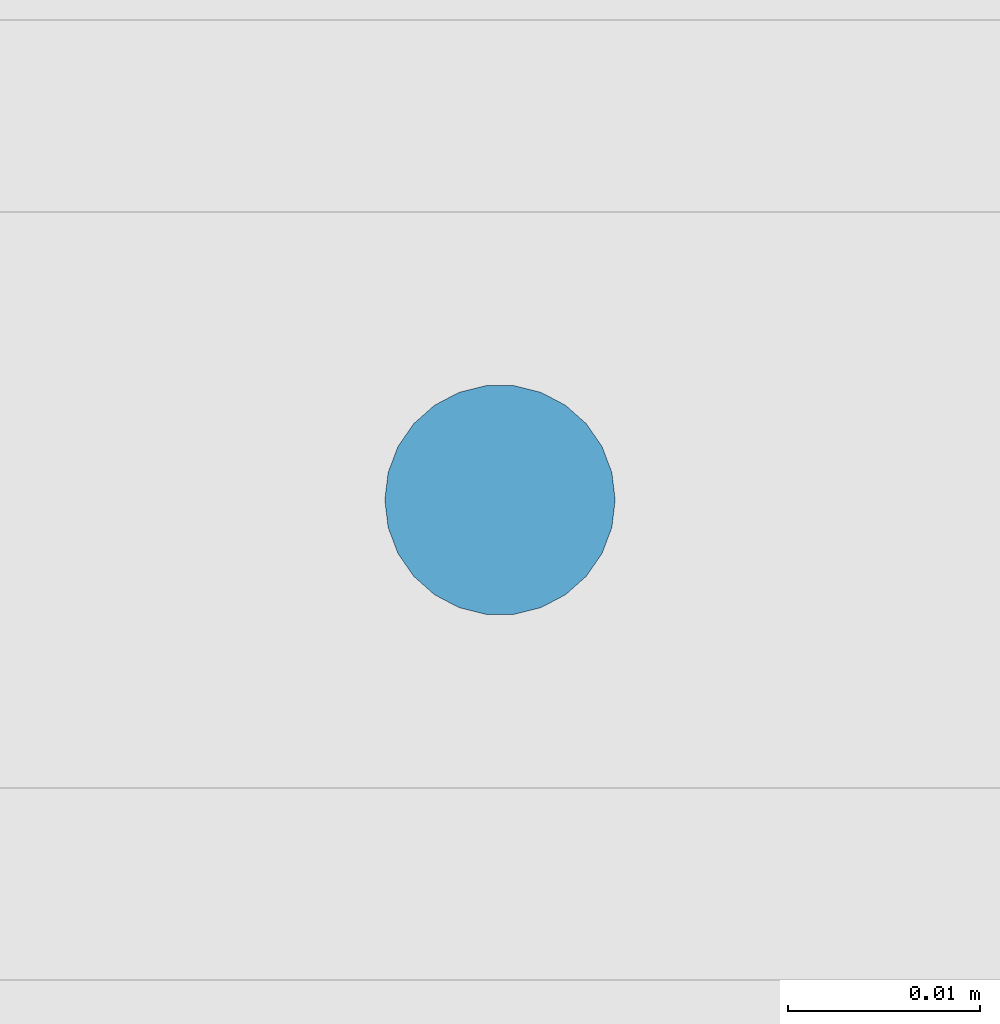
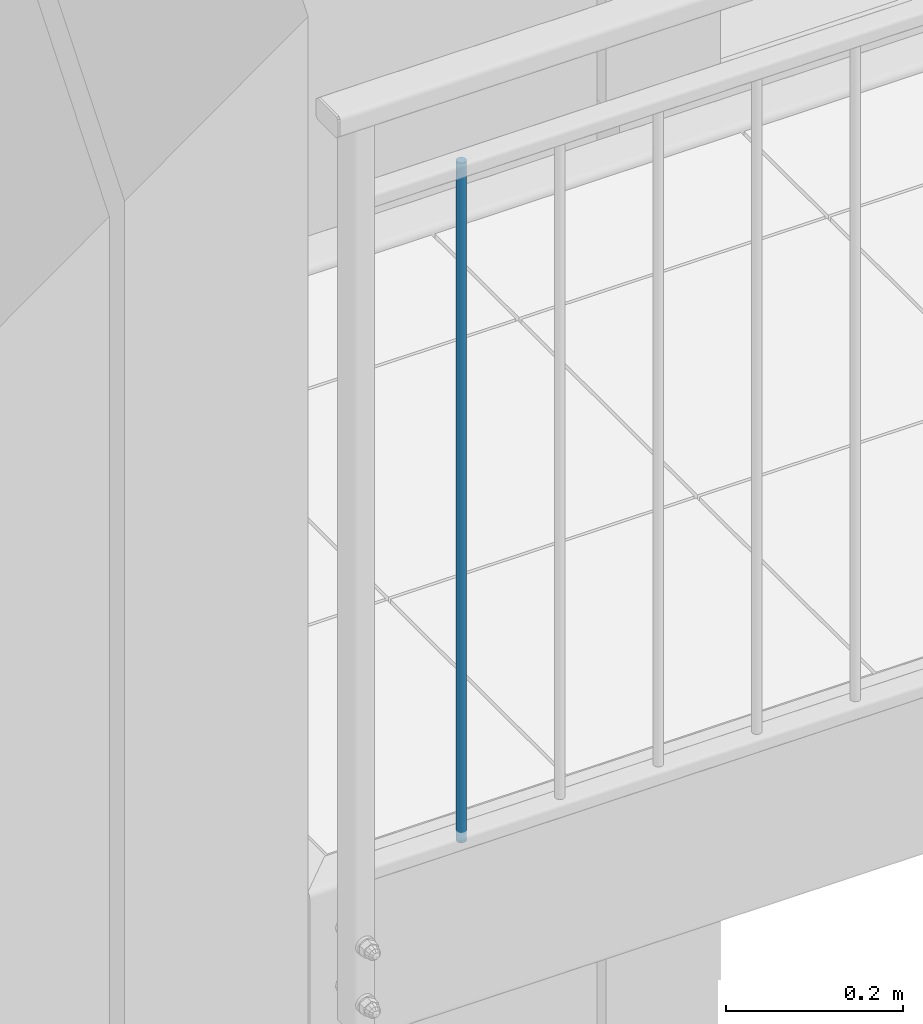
# One storey, part 16 of 162: 1 column.
"""IFC2X3 building model written with IfcOpenShell, lengths in millimetres."""

from ifc_helpers import new_model, entity, si_unit, converted_unit, frame, origin, origin_with_axes, origin_2d, place, context, project, spatial, circle, extrude, material, element, save


model = new_model("IFC2X3")

# Units and contexts
model_context = context("Model", 3, precision=1e-09, world=origin_with_axes())
ifc_project = project(units=[si_unit("LENGTHUNIT", "METRE", prefix="MILLI"), si_unit("AREAUNIT", "SQUARE_METRE"), si_unit("VOLUMEUNIT", "CUBIC_METRE"), converted_unit("PLANEANGLEUNIT", "DEGREE", entity("IfcPlaneAngleMeasure", 0.01745329), si_unit("PLANEANGLEUNIT", "RADIAN"), dimensions=[0, 0, 0, 0, 0, 0, 0])], contexts=[model_context])

# Site, building, storey
site_placement = place(None, origin_with_axes())
site = spatial("IfcSite", under=ifc_project, at=site_placement, Name="Hermannstra?e 1a, 60318 Frankfurt", CompositionType="ELEMENT")
building_placement = place(site_placement, origin_with_axes())
building = spatial("IfcBuilding", under=site, at=building_placement, Name="Struktur 1", CompositionType="ELEMENT")
storey_placement = place(building_placement, origin_with_axes())
storey = spatial("IfcBuildingStorey", under=building, at=storey_placement, Name="Default Storey", CompositionType="ELEMENT", Elevation=0.0)

# Column
ifc_material = material(Name="S235JR")
column_placement = place(None, frame((2741.166507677, 1515.609373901, 11504.999), z_axis=(0.0, 0.0, -1.0), x_axis=(1.0, 0.0, 0.0)))
element("IfcColumn", 1, at=column_placement, inside=storey, material=ifc_material, Name="-", ObjectType="-", context=model_context, shape_type="SweptSolid", body=[
    extrude(circle(Radius=6.0, at=origin_2d()), origin(), (0.0, 0.0, -1.0), 940.0),
])

save(model, "model.ifc")
